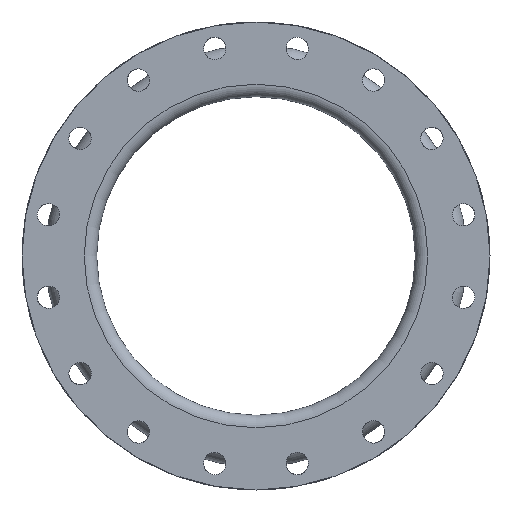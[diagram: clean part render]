
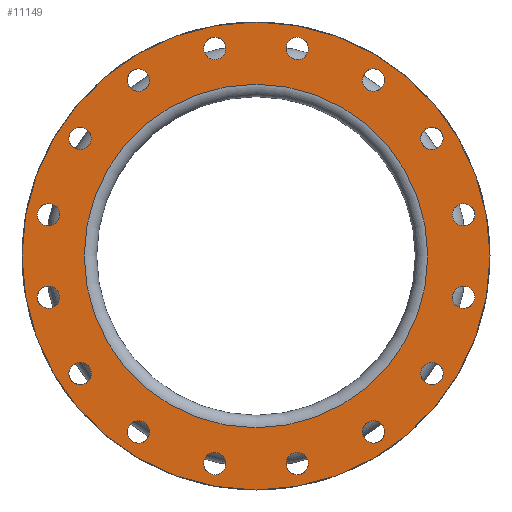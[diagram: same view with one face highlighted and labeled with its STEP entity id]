
A CAD part, left-side view. The second image highlights one B-rep face of the part: STEP entity #11149.
In plain terms, the highlighted planar face has unit normal (-1, 0, 0).
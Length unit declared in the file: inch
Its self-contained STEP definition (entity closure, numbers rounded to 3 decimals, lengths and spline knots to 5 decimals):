
#524=FACE_BOUND('',#1737,.T.);
#525=FACE_BOUND('',#1738,.T.);
#526=FACE_BOUND('',#1739,.T.);
#527=FACE_BOUND('',#1740,.T.);
#528=FACE_BOUND('',#1741,.T.);
#529=FACE_BOUND('',#1742,.T.);
#530=FACE_BOUND('',#1743,.T.);
#531=FACE_BOUND('',#1744,.T.);
#532=FACE_BOUND('',#1745,.T.);
#533=FACE_BOUND('',#1746,.T.);
#534=FACE_BOUND('',#1747,.T.);
#535=FACE_BOUND('',#1748,.T.);
#536=FACE_BOUND('',#1749,.T.);
#537=FACE_BOUND('',#1750,.T.);
#538=FACE_BOUND('',#1751,.T.);
#539=FACE_BOUND('',#1752,.T.);
#540=FACE_BOUND('',#1753,.T.);
#1040=FACE_OUTER_BOUND('',#1736,.T.);
#1736=EDGE_LOOP('',(#8516));
#1737=EDGE_LOOP('',(#8517));
#1738=EDGE_LOOP('',(#8518));
#1739=EDGE_LOOP('',(#8519));
#1740=EDGE_LOOP('',(#8520));
#1741=EDGE_LOOP('',(#8521));
#1742=EDGE_LOOP('',(#8522));
#1743=EDGE_LOOP('',(#8523));
#1744=EDGE_LOOP('',(#8524));
#1745=EDGE_LOOP('',(#8525));
#1746=EDGE_LOOP('',(#8526));
#1747=EDGE_LOOP('',(#8527));
#1748=EDGE_LOOP('',(#8528));
#1749=EDGE_LOOP('',(#8529));
#1750=EDGE_LOOP('',(#8530));
#1751=EDGE_LOOP('',(#8531));
#1752=EDGE_LOOP('',(#8532));
#1753=EDGE_LOOP('',(#8533));
#3873=CIRCLE('',#12152,0.5625);
#3875=CIRCLE('',#12155,0.5625);
#3877=CIRCLE('',#12158,0.5625);
#3879=CIRCLE('',#12161,0.5625);
#3881=CIRCLE('',#12164,0.5625);
#3883=CIRCLE('',#12167,0.5625);
#3885=CIRCLE('',#12170,0.5625);
#3887=CIRCLE('',#12173,0.5625);
#3889=CIRCLE('',#12176,0.5625);
#3891=CIRCLE('',#12179,0.5625);
#3893=CIRCLE('',#12182,0.5625);
#3895=CIRCLE('',#12185,0.5625);
#3897=CIRCLE('',#12188,0.5625);
#3899=CIRCLE('',#12191,0.5625);
#3901=CIRCLE('',#12194,0.5625);
#3903=CIRCLE('',#12197,0.5625);
#3911=CIRCLE('',#12212,8.625);
#3912=CIRCLE('',#12214,11.75);
#4855=VERTEX_POINT('',#18414);
#4857=VERTEX_POINT('',#18419);
#4859=VERTEX_POINT('',#18424);
#4861=VERTEX_POINT('',#18429);
#4863=VERTEX_POINT('',#18434);
#4865=VERTEX_POINT('',#18439);
#4867=VERTEX_POINT('',#18444);
#4869=VERTEX_POINT('',#18449);
#4871=VERTEX_POINT('',#18454);
#4873=VERTEX_POINT('',#18459);
#4875=VERTEX_POINT('',#18464);
#4877=VERTEX_POINT('',#18469);
#4879=VERTEX_POINT('',#18474);
#4881=VERTEX_POINT('',#18479);
#4883=VERTEX_POINT('',#18484);
#4885=VERTEX_POINT('',#18489);
#4893=VERTEX_POINT('',#18512);
#4894=VERTEX_POINT('',#18515);
#6177=EDGE_CURVE('',#4855,#4855,#3873,.T.);
#6179=EDGE_CURVE('',#4857,#4857,#3875,.T.);
#6181=EDGE_CURVE('',#4859,#4859,#3877,.T.);
#6183=EDGE_CURVE('',#4861,#4861,#3879,.T.);
#6185=EDGE_CURVE('',#4863,#4863,#3881,.T.);
#6187=EDGE_CURVE('',#4865,#4865,#3883,.T.);
#6189=EDGE_CURVE('',#4867,#4867,#3885,.T.);
#6191=EDGE_CURVE('',#4869,#4869,#3887,.T.);
#6193=EDGE_CURVE('',#4871,#4871,#3889,.T.);
#6195=EDGE_CURVE('',#4873,#4873,#3891,.T.);
#6197=EDGE_CURVE('',#4875,#4875,#3893,.T.);
#6199=EDGE_CURVE('',#4877,#4877,#3895,.T.);
#6201=EDGE_CURVE('',#4879,#4879,#3897,.T.);
#6203=EDGE_CURVE('',#4881,#4881,#3899,.T.);
#6205=EDGE_CURVE('',#4883,#4883,#3901,.T.);
#6207=EDGE_CURVE('',#4885,#4885,#3903,.T.);
#6215=EDGE_CURVE('',#4893,#4893,#3911,.T.);
#6216=EDGE_CURVE('',#4894,#4894,#3912,.T.);
#8516=ORIENTED_EDGE('',*,*,#6216,.F.);
#8517=ORIENTED_EDGE('',*,*,#6215,.T.);
#8518=ORIENTED_EDGE('',*,*,#6177,.T.);
#8519=ORIENTED_EDGE('',*,*,#6179,.T.);
#8520=ORIENTED_EDGE('',*,*,#6181,.T.);
#8521=ORIENTED_EDGE('',*,*,#6183,.T.);
#8522=ORIENTED_EDGE('',*,*,#6185,.T.);
#8523=ORIENTED_EDGE('',*,*,#6187,.T.);
#8524=ORIENTED_EDGE('',*,*,#6189,.T.);
#8525=ORIENTED_EDGE('',*,*,#6191,.T.);
#8526=ORIENTED_EDGE('',*,*,#6193,.T.);
#8527=ORIENTED_EDGE('',*,*,#6195,.T.);
#8528=ORIENTED_EDGE('',*,*,#6197,.T.);
#8529=ORIENTED_EDGE('',*,*,#6199,.T.);
#8530=ORIENTED_EDGE('',*,*,#6201,.T.);
#8531=ORIENTED_EDGE('',*,*,#6203,.T.);
#8532=ORIENTED_EDGE('',*,*,#6205,.T.);
#8533=ORIENTED_EDGE('',*,*,#6207,.T.);
#10162=PLANE('',#12213);
#11149=ADVANCED_FACE('',(#1040,#524,#525,#526,#527,#528,#529,#530,#531,
#532,#533,#534,#535,#536,#537,#538,#539,#540),#10162,.T.);
#12152=AXIS2_PLACEMENT_3D('',#18415,#14659,#14660);
#12155=AXIS2_PLACEMENT_3D('',#18420,#14665,#14666);
#12158=AXIS2_PLACEMENT_3D('',#18425,#14671,#14672);
#12161=AXIS2_PLACEMENT_3D('',#18430,#14677,#14678);
#12164=AXIS2_PLACEMENT_3D('',#18435,#14683,#14684);
#12167=AXIS2_PLACEMENT_3D('',#18440,#14689,#14690);
#12170=AXIS2_PLACEMENT_3D('',#18445,#14695,#14696);
#12173=AXIS2_PLACEMENT_3D('',#18450,#14701,#14702);
#12176=AXIS2_PLACEMENT_3D('',#18455,#14707,#14708);
#12179=AXIS2_PLACEMENT_3D('',#18460,#14713,#14714);
#12182=AXIS2_PLACEMENT_3D('',#18465,#14719,#14720);
#12185=AXIS2_PLACEMENT_3D('',#18470,#14725,#14726);
#12188=AXIS2_PLACEMENT_3D('',#18475,#14731,#14732);
#12191=AXIS2_PLACEMENT_3D('',#18480,#14737,#14738);
#12194=AXIS2_PLACEMENT_3D('',#18485,#14743,#14744);
#12197=AXIS2_PLACEMENT_3D('',#18490,#14749,#14750);
#12212=AXIS2_PLACEMENT_3D('',#18513,#14779,#14780);
#12213=AXIS2_PLACEMENT_3D('',#18514,#14781,#14782);
#12214=AXIS2_PLACEMENT_3D('',#18516,#14783,#14784);
#14659=DIRECTION('center_axis',(1.,0.,0.));
#14660=DIRECTION('ref_axis',(0.,-0.383,-0.924));
#14665=DIRECTION('center_axis',(1.,0.,0.));
#14666=DIRECTION('ref_axis',(0.,-0.707,-0.707));
#14671=DIRECTION('center_axis',(1.,0.,0.));
#14672=DIRECTION('ref_axis',(0.,-0.924,-0.383));
#14677=DIRECTION('center_axis',(1.,0.,0.));
#14678=DIRECTION('ref_axis',(0.,-1.,0.));
#14683=DIRECTION('center_axis',(1.,0.,0.));
#14684=DIRECTION('ref_axis',(0.,-0.924,0.383));
#14689=DIRECTION('center_axis',(1.,0.,0.));
#14690=DIRECTION('ref_axis',(0.,-0.707,0.707));
#14695=DIRECTION('center_axis',(1.,0.,0.));
#14696=DIRECTION('ref_axis',(0.,-0.383,0.924));
#14701=DIRECTION('center_axis',(1.,0.,0.));
#14702=DIRECTION('ref_axis',(0.,0.,
1.));
#14707=DIRECTION('center_axis',(1.,0.,0.));
#14708=DIRECTION('ref_axis',(0.,0.383,0.924));
#14713=DIRECTION('center_axis',(1.,0.,0.));
#14714=DIRECTION('ref_axis',(0.,0.707,0.707));
#14719=DIRECTION('center_axis',(1.,0.,0.));
#14720=DIRECTION('ref_axis',(0.,0.924,0.383));
#14725=DIRECTION('center_axis',(1.,0.,0.));
#14726=DIRECTION('ref_axis',(0.,1.,0.));
#14731=DIRECTION('center_axis',(1.,0.,0.));
#14732=DIRECTION('ref_axis',(0.,0.924,-0.383));
#14737=DIRECTION('center_axis',(1.,0.,0.));
#14738=DIRECTION('ref_axis',(0.,0.707,-0.707));
#14743=DIRECTION('center_axis',(1.,0.,0.));
#14744=DIRECTION('ref_axis',(0.,0.383,-0.924));
#14749=DIRECTION('center_axis',(1.,0.,0.));
#14750=DIRECTION('ref_axis',(0.,0.,-1.));
#14779=DIRECTION('center_axis',(1.,0.,0.));
#14780=DIRECTION('ref_axis',(0.,0.,-1.));
#14781=DIRECTION('center_axis',(-1.,0.,0.));
#14782=DIRECTION('ref_axis',(0.,0.,1.));
#14783=DIRECTION('center_axis',(1.,0.,0.));
#14784=DIRECTION('ref_axis',(0.,0.,-1.));
#18414=CARTESIAN_POINT('',(-4.,9.04962,-5.38325));
#18415=CARTESIAN_POINT('Origin',(-4.,8.83436,-5.90293));
#18419=CARTESIAN_POINT('',(-4.,6.30068,-8.43662));
#18420=CARTESIAN_POINT('Origin',(-4.,5.90293,-8.83436));
#18424=CARTESIAN_POINT('',(-4.,2.59252,-10.20558));
#18425=CARTESIAN_POINT('Origin',(-4.,2.07283,-10.42084));
#18429=CARTESIAN_POINT('',(-4.,-1.51033,-10.42084));
#18430=CARTESIAN_POINT('Origin',(-4.,-2.07283,-10.42084));
#18434=CARTESIAN_POINT('',(-4.,-5.38325,-9.04962));
#18435=CARTESIAN_POINT('Origin',(-4.,-5.90293,-8.83436));
#18439=CARTESIAN_POINT('',(-4.,-8.43662,-6.30068));
#18440=CARTESIAN_POINT('Origin',(-4.,-8.83436,-5.90293));
#18444=CARTESIAN_POINT('',(-4.,-10.20558,-2.59252));
#18445=CARTESIAN_POINT('Origin',(-4.,-10.42084,-2.07283));
#18449=CARTESIAN_POINT('',(-4.,-10.42084,1.51033));
#18450=CARTESIAN_POINT('Origin',(-4.,-10.42084,2.07283));
#18454=CARTESIAN_POINT('',(-4.,-9.04962,5.38325));
#18455=CARTESIAN_POINT('Origin',(-4.,-8.83436,5.90293));
#18459=CARTESIAN_POINT('',(-4.,-6.30068,8.43662));
#18460=CARTESIAN_POINT('Origin',(-4.,-5.90293,8.83436));
#18464=CARTESIAN_POINT('',(-4.,-2.59252,10.20558));
#18465=CARTESIAN_POINT('Origin',(-4.,-2.07283,10.42084));
#18469=CARTESIAN_POINT('',(-4.,1.51033,10.42084));
#18470=CARTESIAN_POINT('Origin',(-4.,2.07283,10.42084));
#18474=CARTESIAN_POINT('',(-4.,5.38325,9.04962));
#18475=CARTESIAN_POINT('Origin',(-4.,5.90293,8.83436));
#18479=CARTESIAN_POINT('',(-4.,8.43662,6.30068));
#18480=CARTESIAN_POINT('Origin',(-4.,8.83436,5.90293));
#18484=CARTESIAN_POINT('',(-4.,10.20558,2.59252));
#18485=CARTESIAN_POINT('Origin',(-4.,10.42084,2.07283));
#18489=CARTESIAN_POINT('',(-4.,10.42084,-1.51033));
#18490=CARTESIAN_POINT('Origin',(-4.,10.42084,-2.07283));
#18512=CARTESIAN_POINT('',(-4.,8.625,0.));
#18513=CARTESIAN_POINT('Origin',(-4.,0.,0.));
#18514=CARTESIAN_POINT('Origin',(-4.,11.75,0.));
#18515=CARTESIAN_POINT('',(-4.,11.75,0.));
#18516=CARTESIAN_POINT('Origin',(-4.,0.,0.));
